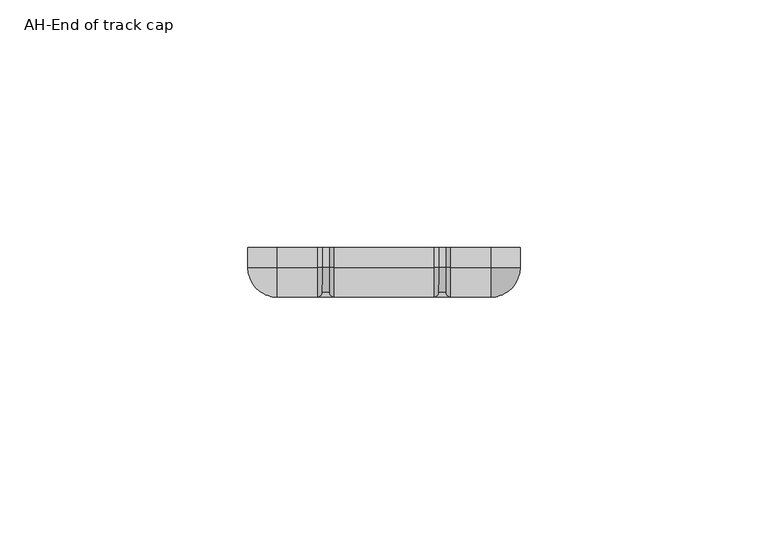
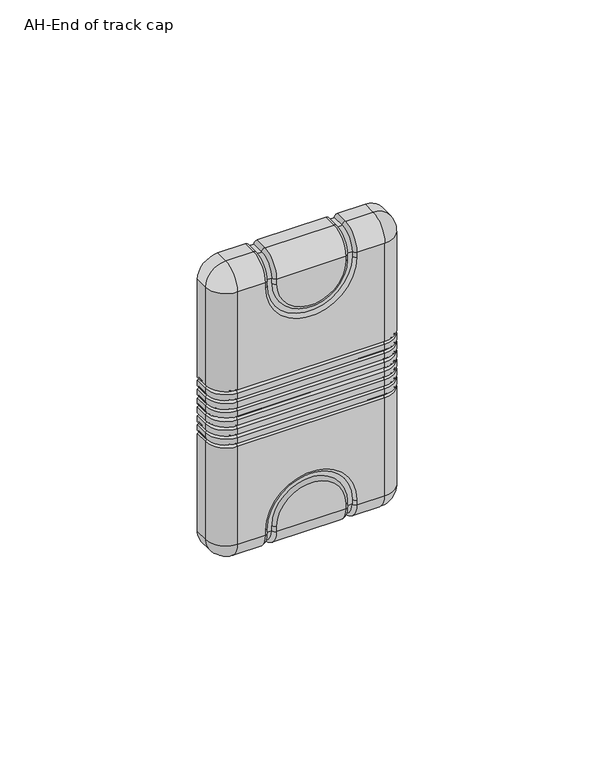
"""IFC4 building model written with IfcOpenShell, lengths in millimetres: proxy geometry, End Of Track Cap - ARJO - Revit2017 - REV0 : AH-End of track cap."""

from ifc_helpers import new_model, si_unit, point, frame, origin, place, context, project, spatial, polyline, circle_curve, ellipse_curve, trimmed, source, transform, mapped, element, save
from ifc_brep_helpers import plane_surface, cylinder_surface, revolved_surface, advanced_brep


def ah_end_of_track_cap_7309f591(model_context):
    return source(origin(), model_context, "Body", "AdvancedBrep", [
        advanced_brep(
        [(27.5, -4.0, 38.0), (27.5, 0.0, 38.0), (27.5, 0.0, 39.75), (27.5, -4.0, 39.75), (27.5, 0.0, 37.0), (27.5, -4.0, 37.0), (27.5, -4.0, 35.25), (27.5, 0.0, 35.25), (27.5, 0.0, 31.5), (27.5, -4.0, 31.5), (27.5, -4.0, 29.75), (27.5, 0.0, 29.75), (27.5, 0.0, 34.25), (27.5, -4.0, 34.25), (27.5, -4.0, 32.5), (27.5, 0.0, 32.5), (27.5, 0.0, -1.5), (27.5, 0.0, 28.75), (27.5, -4.0, 28.75), (27.5, -4.0, -1.5), (27.5, 0.0, 46.25), (27.5, 0.0, 76.5), (27.5, -4.0, 76.5), (27.5, -4.0, 46.25), (27.5, 0.0, 42.5), (27.5, -4.0, 42.5), (27.5, -4.0, 40.75), (27.5, 0.0, 40.75), (27.5, 0.0, 45.25), (27.5, -4.0, 45.25), (27.5, -4.0, 43.5), (27.5, 0.0, 43.5), (21.5, -10.0, 37.0), (21.5, -10.0, 35.25), (21.5, -10.0, 38.0), (21.5, -10.0, 39.75), (21.5, -10.0, 31.5), (21.5, -10.0, 29.75), (21.5, -10.0, 34.25), (21.5, -10.0, 32.5), (21.5, -10.0, 42.5), (21.5, -10.0, 40.75), (21.5, -10.0, 76.5), (21.5, -10.0, 46.25), (21.5, -10.0, 45.25), (21.5, -10.0, 43.5), (21.5, -10.0, 28.75), (21.5, -10.0, -1.5), (-21.5, -10.0, 38.0), (-21.5, -10.0, 37.0), (-27.5, -4.0, 38.0), (-27.5, -4.0, 37.0), (-27.5, 0.0, 38.0), (-27.5, 0.0, 37.0), (-21.5, -10.0, 39.75), (-21.5, -10.0, 35.25), (-10.0346028, -10.0, 76.5), (-10.0346028, -10.0, 75.0), (10.0346028, -10.0, 75.0), (10.0346028, -10.0, 76.5), (-13.4826973, -10.0, 75.0), (-13.4826973, -10.0, 76.5), (-21.5, -10.0, 76.5), (-21.5, -10.0, 46.25), (13.4826973, -10.0, 76.5), (13.4826973, -10.0, 75.0), (-10.0346028, -10.0, 0.0), (-10.0346028, -10.0, -1.5), (10.0346028, -10.0, -1.5), (10.0346028, -10.0, 0.0), (-13.4826973, -10.0, -1.5), (-13.4826973, -10.0, 0.0), (13.4826973, -10.0, 0.0), (13.4826973, -10.0, -1.5), (-21.5, -10.0, 28.75), (-21.5, -10.0, -1.5), (-21.5, -10.0, 42.5), (-21.5, -10.0, 40.75), (-21.5, -10.0, 45.25), (-21.5, -10.0, 43.5), (-21.5, -10.0, 34.25), (-21.5, -10.0, 32.5), (-21.5, -10.0, 31.5), (-21.5, -10.0, 29.75), (21.5, 0.0, -7.5), (13.4826973, 0.0, -7.5), (12.5001497, 0.0, -6.5174524), (11.0171504, 0.0, -6.5174524), (10.0346028, 0.0, -7.5), (-10.0346028, 0.0, -7.5), (-11.0171504, 0.0, -6.5174524), (-12.5001497, 0.0, -6.5174524), (-13.4826973, 0.0, -7.5), (-21.5, 0.0, -7.5), (-27.5, 0.0, -1.5), (-27.5, 0.0, 28.75), (-27.5, 0.0, 29.75), (-27.5, 0.0, 31.5), (-27.5, 0.0, 32.5), (-27.5, 0.0, 34.25), (-27.5, 0.0, 35.25), (-27.5, 0.0, 39.75), (-27.5, 0.0, 40.75), (-27.5, 0.0, 42.5), (-27.5, 0.0, 43.5), (-27.5, 0.0, 45.25), (-27.5, 0.0, 46.25), (-27.5, 0.0, 76.5), (-21.5, 0.0, 82.5), (-13.4826973, 0.0, 82.5), (-12.5001497, 0.0, 81.5174524), (-11.0171504, 0.0, 81.5174524), (-10.0346028, 0.0, 82.5), (10.0346028, 0.0, 82.5), (11.0171504, 0.0, 81.5174524), (12.5001497, 0.0, 81.5174524), (13.4826973, 0.0, 82.5), (21.5, 0.0, 82.5), (-11.0171504, -9.0174524, 76.5), (-11.0171504, -9.0174524, 75.0), (-12.5001497, -9.0174524, 76.5), (-12.5001497, -9.0174524, 75.0), (12.5001497, -9.0174524, 75.0), (12.5001497, -9.0174524, 76.5), (11.0171504, -9.0174524, 76.5), (11.0171504, -9.0174524, 75.0), (-11.0171504, -9.0174524, 0.0), (-11.0171504, -9.0174524, -1.5), (11.0171504, -9.0174524, 0.0), (11.0171504, -9.0174524, -1.5), (12.5001497, -9.0174524, -1.5), (12.5001497, -9.0174524, 0.0), (-12.5001497, -9.0174524, 0.0), (-12.5001497, -9.0174524, -1.5), (21.5, -4.0, -7.5), (13.4826973, -4.0, -7.5), (10.0346028, -4.0, -7.5), (-10.0346028, -4.0, -7.5), (-13.4826974, -4.0, -7.5), (-21.5, -4.0, -7.5), (-27.5, -4.0, -1.5), (-21.5, -4.0, 82.5), (-13.4826973, -4.0, 82.5), (21.5, -4.0, 82.5), (13.4826973, -4.0, 82.5), (-10.0346028, -4.0, 82.5), (10.0346028, -4.0, 82.5), (-27.5, -4.0, 39.75), (-27.5, -4.0, 35.25), (-27.5, -4.0, 28.75), (-27.5, -4.0, 46.25), (-27.5, -4.0, 76.5), (-27.5, -4.0, 45.25), (-27.5, -4.0, 43.5), (-27.5, -4.0, 42.5), (-27.5, -4.0, 40.75), (-27.5, -4.0, 34.25), (-27.5, -4.0, 32.5), (-27.5, -4.0, 31.5), (-27.5, -4.0, 29.75), (-12.5001497, -4.0, 81.5174524), (-11.0171504, -4.0, 81.5174524), (11.0171504, -4.0, 81.5174524), (12.5001497, -4.0, 81.5174524), (12.5001497, -4.0, -6.5174524), (11.0171504, -4.0, -6.5174524), (-11.0171504, -4.0, -6.5174524), (-12.5001497, -4.0, -6.5174524)],
        [
            (0, 1),
            (1, 2),
            (2, 3),
            (3, 0),
            (4, 5),
            (5, 6),
            (6, 7),
            (7, 4),
            (8, 9),
            (9, 10),
            (10, 11),
            (11, 8),
            (12, 13),
            (13, 14),
            (14, 15),
            (15, 12),
            (16, 17),
            (17, 18),
            (18, 19),
            (19, 16),
            (20, 21),
            (21, 22),
            (22, 23),
            (23, 20),
            (24, 25),
            (25, 26),
            (26, 27),
            (27, 24),
            (28, 29),
            (29, 30),
            (30, 31),
            (31, 28),
            (5, 32, circle_curve(frame((21.5, -4.0, 37.0), z_axis=(0.0, 0.0, -1.0), x_axis=(0.0, 1.0, 0.0)), 6.0)),
            (32, 33),
            (33, 6, circle_curve(frame((21.5, -4.0, 35.25), z_axis=(0.0, 0.0, 1.0), x_axis=(0.0, 1.0, 0.0)), 6.0)),
            (34, 0, circle_curve(frame((21.5, -4.0, 38.0), z_axis=(0.0, 0.0, 1.0), x_axis=(0.0, 1.0, 0.0)), 6.0)),
            (3, 35, circle_curve(frame((21.5, -4.0, 39.75), z_axis=(0.0, 0.0, -1.0), x_axis=(0.0, 1.0, 0.0)), 6.0)),
            (35, 34),
            (9, 36, circle_curve(frame((21.5, -4.0, 31.5), z_axis=(0.0, 0.0, -1.0), x_axis=(0.0, 1.0, 0.0)), 6.0)),
            (36, 37),
            (37, 10, circle_curve(frame((21.5, -4.0, 29.75), z_axis=(0.0, 0.0, 1.0), x_axis=(0.0, 1.0, 0.0)), 6.0)),
            (13, 38, circle_curve(frame((21.5, -4.0, 34.25), z_axis=(0.0, 0.0, -1.0), x_axis=(0.0, 1.0, 0.0)), 6.0)),
            (38, 39),
            (39, 14, circle_curve(frame((21.5, -4.0, 32.5), z_axis=(0.0, 0.0, 1.0), x_axis=(0.0, 1.0, 0.0)), 6.0)),
            (25, 40, circle_curve(frame((21.5, -4.0, 42.5), z_axis=(0.0, 0.0, -1.0), x_axis=(0.0, 1.0, 0.0)), 6.0)),
            (40, 41),
            (41, 26, circle_curve(frame((21.5, -4.0, 40.75), z_axis=(0.0, 0.0, 1.0), x_axis=(0.0, 1.0, 0.0)), 6.0)),
            (42, 43),
            (43, 23, circle_curve(frame((21.5, -4.0, 46.25), z_axis=(0.0, 0.0, 1.0), x_axis=(0.0, 1.0, 0.0)), 6.0)),
            (22, 42, circle_curve(frame((21.5, -4.0, 76.5), z_axis=(0.0, 0.0, -1.0), x_axis=(0.0, 1.0, 0.0)), 6.0)),
            (29, 44, circle_curve(frame((21.5, -4.0, 45.25), z_axis=(0.0, 0.0, -1.0), x_axis=(0.0, 1.0, 0.0)), 6.0)),
            (44, 45),
            (45, 30, circle_curve(frame((21.5, -4.0, 43.5), z_axis=(0.0, 0.0, 1.0), x_axis=(0.0, 1.0, 0.0)), 6.0)),
            (46, 47),
            (47, 19, circle_curve(frame((21.5, -4.0, -1.5), z_axis=(0.0, 0.0, 1.0), x_axis=(0.0, 1.0, 0.0)), 6.0)),
            (18, 46, circle_curve(frame((21.5, -4.0, 28.75), z_axis=(0.0, 0.0, -1.0), x_axis=(0.0, 1.0, 0.0)), 6.0)),
            (0, 5, circle_curve(frame((27.6214708, -4.0, 37.5), z_axis=(0.0, -1.0, 0.0), x_axis=(0.0, 0.0, 1.0)), 0.5145436)),
            (4, 1, circle_curve(frame((27.6214708, 0.0, 37.5), z_axis=(0.0, 1.0, 0.0), x_axis=(0.0, 0.0, 1.0)), 0.5145436)),
            (34, 32, circle_curve(frame((21.5, -10.1214708, 37.5), z_axis=(-1.0, 0.0, 0.0), x_axis=(0.0, 0.0, 1.0)), 0.5145436)),
            (34, 48),
            (48, 49, circle_curve(frame((-21.5, -10.1214708, 37.5), z_axis=(-1.0, 0.0, 0.0), x_axis=(0.0, 0.0, 1.0)), 0.5145436)),
            (49, 32),
            (48, 50, circle_curve(frame((-21.5, -4.0, 38.0), z_axis=(0.0, 0.0, -1.0), x_axis=(0.0, -1.0, 0.0)), 6.0)),
            (50, 51, circle_curve(frame((-27.6214708, -4.0, 37.5), z_axis=(0.0, 1.0, 0.0), x_axis=(0.0, 0.0, 1.0)), 0.5145436)),
            (51, 49, circle_curve(frame((-21.5, -4.0, 37.0), z_axis=(0.0, 0.0, 1.0), x_axis=(0.0, -1.0, 0.0)), 6.0)),
            (50, 52),
            (52, 53, circle_curve(frame((-27.6214708, 0.0, 37.5), z_axis=(0.0, 1.0, 0.0), x_axis=(0.0, 0.0, 1.0)), 0.5145436)),
            (53, 51),
            (35, 54),
            (54, 48),
            (49, 55),
            (55, 33),
            (56, 57),
            (57, 58, circle_curve(frame((0.0, -10.0, 75.0), z_axis=(0.0, -1.0, 0.0), x_axis=(-1.0, 0.0, 0.0)), 10.0346028)),
            (58, 59),
            (59, 56),
            (60, 61),
            (61, 62),
            (62, 63),
            (63, 43),
            (42, 64),
            (64, 65),
            (65, 60, circle_curve(frame((0.0, -10.0, 75.0), z_axis=(0.0, 1.0, 0.0), x_axis=(-1.0, 0.0, 0.0)), 13.4826973)),
            (66, 67),
            (67, 68),
            (68, 69),
            (69, 66, circle_curve(frame((0.0, -10.0, 0.0), z_axis=(0.0, -1.0, 0.0), x_axis=(-1.0, 0.0, 0.0)), 10.0346028)),
            (70, 71),
            (71, 72, circle_curve(frame((0.0, -10.0, 0.0), z_axis=(0.0, 1.0, 0.0), x_axis=(-1.0, 0.0, 0.0)), 13.4826973)),
            (72, 73),
            (73, 47),
            (46, 74),
            (74, 75),
            (75, 70),
            (40, 76),
            (76, 77),
            (77, 41),
            (44, 78),
            (78, 79),
            (79, 45),
            (38, 80),
            (80, 81),
            (81, 39),
            (36, 82),
            (82, 83),
            (83, 37),
            (7, 12, circle_curve(frame((27.6214708, 0.0, 34.75), z_axis=(0.0, -1.0, 0.0), x_axis=(0.0, 0.0, 1.0)), 0.5145436)),
            (15, 8, circle_curve(frame((27.6214708, 0.0, 32.0), z_axis=(0.0, -1.0, 0.0), x_axis=(0.0, 0.0, 1.0)), 0.5145436)),
            (11, 17, circle_curve(frame((27.6214708, 0.0, 29.25), z_axis=(0.0, -1.0, 0.0), x_axis=(0.0, 0.0, 1.0)), 0.5145436)),
            (16, 84, circle_curve(frame((21.5, 0.0, -1.5), z_axis=(0.0, 1.0, 0.0), x_axis=(1.0, 0.0, 0.0)), 6.0)),
            (84, 85),
            (85, 86, circle_curve(frame((13.4826973, 0.0, -6.5174524), z_axis=(0.0, 1.0, 0.0), x_axis=(-1.0, 0.0, 0.0)), 0.9825476)),
            (86, 87),
            (87, 88, circle_curve(frame((10.0346028, 0.0, -6.5174524), z_axis=(0.0, 1.0, 0.0), x_axis=(-1.0, 0.0, 0.0)), 0.9825476)),
            (88, 89),
            (89, 90, circle_curve(frame((-10.0346028, 0.0, -6.5174524), z_axis=(0.0, 1.0, 0.0), x_axis=(-1.0, 0.0, 0.0)), 0.9825476)),
            (90, 91),
            (91, 92, circle_curve(frame((-13.4826973, 0.0, -6.5174524), z_axis=(0.0, 1.0, 0.0), x_axis=(-1.0, 0.0, 0.0)), 0.9825476)),
            (92, 93),
            (93, 94, circle_curve(frame((-21.5, 0.0, -1.5), z_axis=(0.0, 1.0, 0.0), x_axis=(-1.0, 0.0, 0.0)), 6.0)),
            (94, 95),
            (95, 96, circle_curve(frame((-27.6214708, 0.0, 29.25), z_axis=(0.0, -1.0, 0.0), x_axis=(0.0, 0.0, 1.0)), 0.5145436)),
            (96, 97),
            (97, 98, circle_curve(frame((-27.6214708, 0.0, 32.0), z_axis=(0.0, -1.0, 0.0), x_axis=(0.0, 0.0, 1.0)), 0.5145436)),
            (98, 99),
            (99, 100, circle_curve(frame((-27.6214708, 0.0, 34.75), z_axis=(0.0, -1.0, 0.0), x_axis=(0.0, 0.0, 1.0)), 0.5145436)),
            (100, 53),
            (52, 101),
            (101, 102, circle_curve(frame((-27.6214708, 0.0, 40.25), z_axis=(0.0, -1.0, 0.0), x_axis=(0.0, 0.0, 1.0)), 0.5145436)),
            (102, 103),
            (103, 104, circle_curve(frame((-27.6214708, 0.0, 43.0), z_axis=(0.0, -1.0, 0.0), x_axis=(0.0, 0.0, 1.0)), 0.5145436)),
            (104, 105),
            (105, 106, circle_curve(frame((-27.6214708, 0.0, 45.75), z_axis=(0.0, -1.0, 0.0), x_axis=(0.0, 0.0, 1.0)), 0.5145436)),
            (106, 107),
            (107, 108, circle_curve(frame((-21.5, 0.0, 76.5), z_axis=(0.0, 1.0, 0.0), x_axis=(0.0, 0.0, 1.0)), 6.0)),
            (108, 109),
            (109, 110, circle_curve(frame((-13.4826973, 0.0, 81.5174524), z_axis=(0.0, 1.0, 0.0), x_axis=(1.0, 0.0, 0.0)), 0.9825476)),
            (110, 111),
            (111, 112, circle_curve(frame((-10.0346028, 0.0, 81.5174524), z_axis=(0.0, 1.0, 0.0), x_axis=(1.0, 0.0, 0.0)), 0.9825476)),
            (112, 113),
            (113, 114, circle_curve(frame((10.0346028, 0.0, 81.5174524), z_axis=(0.0, 1.0, 0.0), x_axis=(1.0, 0.0, 0.0)), 0.9825476)),
            (114, 115),
            (115, 116, circle_curve(frame((13.4826973, 0.0, 81.5174524), z_axis=(0.0, 1.0, 0.0), x_axis=(1.0, 0.0, 0.0)), 0.9825476)),
            (116, 117),
            (117, 21, circle_curve(frame((21.5, 0.0, 76.5), z_axis=(0.0, 1.0, 0.0), x_axis=(0.0, 0.0, 1.0)), 6.0)),
            (20, 28, circle_curve(frame((27.6214708, 0.0, 45.75), z_axis=(0.0, -1.0, 0.0), x_axis=(0.0, 0.0, 1.0)), 0.5145436)),
            (31, 24, circle_curve(frame((27.6214708, 0.0, 43.0), z_axis=(0.0, -1.0, 0.0), x_axis=(0.0, 0.0, 1.0)), 0.5145436)),
            (27, 2, circle_curve(frame((27.6214708, 0.0, 40.25), z_axis=(0.0, -1.0, 0.0), x_axis=(0.0, 0.0, 1.0)), 0.5145436)),
            (118, 119),
            (119, 57, circle_curve(frame((-10.0346028, -9.0174524, 75.0), z_axis=(0.0, 0.0, 1.0), x_axis=(-1.0, 0.0, 0.0)), 0.9825476)),
            (56, 118, circle_curve(frame((-10.0346028, -9.0174524, 76.5), z_axis=(0.0, 0.0, -1.0), x_axis=(-1.0, 0.0, 0.0)), 0.9825476)),
            (118, 120),
            (120, 121),
            (121, 122, circle_curve(frame((0.0, -9.0174524, 75.0), z_axis=(0.0, -1.0, 0.0), x_axis=(-1.0, 0.0, 0.0)), 12.5001497)),
            (122, 123),
            (123, 124),
            (124, 125),
            (125, 119, circle_curve(frame((0.0, -9.0174524, 75.0), z_axis=(0.0, 1.0, 0.0), x_axis=(-1.0, 0.0, 0.0)), 11.0171504)),
            (120, 61, circle_curve(frame((-13.4826973, -9.0174524, 76.5), z_axis=(0.0, 0.0, -1.0), x_axis=(-1.0, 0.0, 0.0)), 0.9825476)),
            (60, 121, circle_curve(frame((-13.4826973, -9.0174524, 75.0), z_axis=(0.0, 0.0, 1.0), x_axis=(-1.0, 0.0, 0.0)), 0.9825476)),
            (125, 58, circle_curve(frame((10.0346028, -9.0174524, 75.0), z_axis=(0.0, 0.0, -1.0), x_axis=(1.0, 0.0, 0.0)), 0.9825476)),
            (65, 122, circle_curve(frame((13.4826973, -9.0174524, 75.0), z_axis=(0.0, 0.0, -1.0), x_axis=(1.0, 0.0, 0.0)), 0.9825476)),
            (124, 59, circle_curve(frame((10.0346028, -9.0174524, 76.5), z_axis=(0.0, 0.0, -1.0), x_axis=(1.0, 0.0, 0.0)), 0.9825476)),
            (64, 123, circle_curve(frame((13.4826973, -9.0174524, 76.5), z_axis=(0.0, 0.0, -1.0), x_axis=(1.0, 0.0, 0.0)), 0.9825476)),
            (66, 126, circle_curve(frame((-10.0346028, -9.0174524, 0.0), z_axis=(0.0, 0.0, -1.0), x_axis=(-1.0, 0.0, 0.0)), 0.9825476)),
            (126, 127),
            (127, 67, circle_curve(frame((-10.0346028, -9.0174524, -1.5), z_axis=(0.0, 0.0, 1.0), x_axis=(-1.0, 0.0, 0.0)), 0.9825476)),
            (126, 128, circle_curve(frame((0.0, -9.0174524, 0.0), z_axis=(0.0, 1.0, 0.0), x_axis=(-1.0, 0.0, 0.0)), 11.0171504)),
            (128, 129),
            (129, 130),
            (130, 131),
            (131, 132, circle_curve(frame((0.0, -9.0174524, 0.0), z_axis=(0.0, -1.0, 0.0), x_axis=(-1.0, 0.0, 0.0)), 12.5001497)),
            (132, 133),
            (133, 127),
            (132, 71, circle_curve(frame((-13.4826973, -9.0174524, 0.0), z_axis=(0.0, 0.0, -1.0), x_axis=(-1.0, 0.0, 0.0)), 0.9825476)),
            (70, 133, circle_curve(frame((-13.4826973, -9.0174524, -1.5), z_axis=(0.0, 0.0, 1.0), x_axis=(-1.0, 0.0, 0.0)), 0.9825476)),
            (69, 128, circle_curve(frame((10.0346028, -9.0174524, 0.0), z_axis=(0.0, 0.0, 1.0), x_axis=(1.0, 0.0, 0.0)), 0.9825476)),
            (131, 72, circle_curve(frame((13.4826973, -9.0174524, 0.0), z_axis=(0.0, 0.0, 1.0), x_axis=(1.0, 0.0, 0.0)), 0.9825476)),
            (68, 129, circle_curve(frame((10.0346028, -9.0174524, -1.5), z_axis=(0.0, 0.0, 1.0), x_axis=(1.0, 0.0, 0.0)), 0.9825476)),
            (130, 73, circle_curve(frame((13.4826973, -9.0174524, -1.5), z_axis=(0.0, 0.0, 1.0), x_axis=(1.0, 0.0, 0.0)), 0.9825476)),
            (19, 134, circle_curve(frame((21.5, -4.0, -1.5), z_axis=(0.0, 1.0, 0.0), x_axis=(1.0, 0.0, 0.0)), 6.0)),
            (134, 84),
            (47, 134, circle_curve(frame((21.5, -4.0, -1.5), z_axis=(1.0, 0.0, 0.0), x_axis=(0.0, 1.0, 0.0)), 6.0)),
            (134, 135),
            (135, 85),
            (88, 136),
            (136, 137),
            (137, 89),
            (138, 139),
            (139, 93),
            (92, 138),
            (73, 135, circle_curve(frame((13.4826973, -4.0, -1.5), z_axis=(1.0, 0.0, 0.0), x_axis=(0.0, 1.0, 0.0)), 6.0)),
            (138, 70, circle_curve(frame((-13.4826973, -4.0, -1.5), z_axis=(-1.0, 0.0, 0.0), x_axis=(0.0, 1.0, 0.0)), 6.0)),
            (75, 139, circle_curve(frame((-21.5, -4.0, -1.5), z_axis=(1.0, 0.0, 0.0), x_axis=(0.0, 1.0, 0.0)), 6.0)),
            (136, 68, circle_curve(frame((10.0346028, -4.0, -1.5), z_axis=(-1.0, 0.0, 0.0), x_axis=(0.0, 1.0, 0.0)), 6.0)),
            (67, 137, circle_curve(frame((-10.0346028, -4.0, -1.5), z_axis=(1.0, 0.0, 0.0), x_axis=(0.0, 1.0, 0.0)), 6.0)),
            (139, 140, circle_curve(frame((-21.5, -4.0, -1.5), z_axis=(0.0, 1.0, 0.0), x_axis=(-1.0, 0.0, 0.0)), 6.0)),
            (140, 94),
            (75, 140, circle_curve(frame((-21.5, -4.0, -1.5), z_axis=(0.0, 0.0, -1.0), x_axis=(0.0, 1.0, 0.0)), 6.0)),
            (108, 141),
            (141, 142),
            (142, 109),
            (143, 117),
            (116, 144),
            (144, 143),
            (112, 145),
            (145, 146),
            (146, 113),
            (42, 143, circle_curve(frame((21.5, -4.0, 76.5), z_axis=(-1.0, 0.0, 0.0), x_axis=(0.0, 1.0, 0.0)), 6.0)),
            (144, 64, circle_curve(frame((13.4826973, -4.0, 76.5), z_axis=(1.0, 0.0, 0.0), x_axis=(0.0, 1.0, 0.0)), 6.0)),
            (141, 62, circle_curve(frame((-21.5, -4.0, 76.5), z_axis=(1.0, 0.0, 0.0), x_axis=(0.0, 1.0, 0.0)), 6.0)),
            (61, 142, circle_curve(frame((-13.4826973, -4.0, 76.5), z_axis=(-1.0, 0.0, 0.0), x_axis=(0.0, 1.0, 0.0)), 6.0)),
            (145, 56, circle_curve(frame((-10.0346028, -4.0, 76.5), z_axis=(1.0, 0.0, 0.0), x_axis=(0.0, 1.0, 0.0)), 6.0)),
            (59, 146, circle_curve(frame((10.0346028, -4.0, 76.5), z_axis=(-1.0, 0.0, 0.0), x_axis=(0.0, 1.0, 0.0)), 6.0)),
            (50, 147),
            (147, 101),
            (100, 148),
            (148, 51),
            (140, 149),
            (149, 95),
            (106, 150),
            (150, 151),
            (151, 107),
            (152, 105),
            (104, 153),
            (153, 152),
            (154, 103),
            (102, 155),
            (155, 154),
            (156, 99),
            (98, 157),
            (157, 156),
            (158, 97),
            (96, 159),
            (159, 158),
            (54, 147, circle_curve(frame((-21.5, -4.0, 39.75), z_axis=(0.0, 0.0, -1.0), x_axis=(0.0, 1.0, 0.0)), 6.0)),
            (148, 55, circle_curve(frame((-21.5, -4.0, 35.25), z_axis=(0.0, 0.0, 1.0), x_axis=(0.0, 1.0, 0.0)), 6.0)),
            (62, 151, circle_curve(frame((-21.5, -4.0, 76.5), z_axis=(0.0, 0.0, -1.0), x_axis=(0.0, 1.0, 0.0)), 6.0)),
            (150, 63, circle_curve(frame((-21.5, -4.0, 46.25), z_axis=(0.0, 0.0, 1.0), x_axis=(0.0, 1.0, 0.0)), 6.0)),
            (74, 149, circle_curve(frame((-21.5, -4.0, 28.75), z_axis=(0.0, 0.0, -1.0), x_axis=(0.0, 1.0, 0.0)), 6.0)),
            (78, 152, circle_curve(frame((-21.5, -4.0, 45.25), z_axis=(0.0, 0.0, -1.0), x_axis=(0.0, 1.0, 0.0)), 6.0)),
            (153, 79, circle_curve(frame((-21.5, -4.0, 43.5), z_axis=(0.0, 0.0, 1.0), x_axis=(0.0, 1.0, 0.0)), 6.0)),
            (76, 154, circle_curve(frame((-21.5, -4.0, 42.5), z_axis=(0.0, 0.0, -1.0), x_axis=(0.0, 1.0, 0.0)), 6.0)),
            (155, 77, circle_curve(frame((-21.5, -4.0, 40.75), z_axis=(0.0, 0.0, 1.0), x_axis=(0.0, 1.0, 0.0)), 6.0)),
            (80, 156, circle_curve(frame((-21.5, -4.0, 34.25), z_axis=(0.0, 0.0, -1.0), x_axis=(0.0, 1.0, 0.0)), 6.0)),
            (157, 81, circle_curve(frame((-21.5, -4.0, 32.5), z_axis=(0.0, 0.0, 1.0), x_axis=(0.0, 1.0, 0.0)), 6.0)),
            (82, 158, circle_curve(frame((-21.5, -4.0, 31.5), z_axis=(0.0, 0.0, -1.0), x_axis=(0.0, 1.0, 0.0)), 6.0)),
            (159, 83, circle_curve(frame((-21.5, -4.0, 29.75), z_axis=(0.0, 0.0, 1.0), x_axis=(0.0, 1.0, 0.0)), 6.0)),
            (143, 22, circle_curve(frame((21.5, -4.0, 76.5), z_axis=(0.0, 1.0, 0.0), x_axis=(0.0, 0.0, 1.0)), 6.0)),
            (151, 141, circle_curve(frame((-21.5, -4.0, 76.5), z_axis=(0.0, 1.0, 0.0), x_axis=(0.0, 0.0, 1.0)), 6.0)),
            (23, 29, circle_curve(frame((27.6214708, -4.0, 45.75), z_axis=(0.0, -1.0, 0.0), x_axis=(0.0, 0.0, 1.0)), 0.5145436)),
            (43, 44, circle_curve(frame((21.5, -10.1214708, 45.75), z_axis=(-1.0, 0.0, 0.0), x_axis=(0.0, 0.0, 1.0)), 0.5145436)),
            (63, 78, circle_curve(frame((-21.5, -10.1214708, 45.75), z_axis=(-1.0, 0.0, 0.0), x_axis=(0.0, 0.0, 1.0)), 0.5145436)),
            (150, 152, circle_curve(frame((-27.6214708, -4.0, 45.75), z_axis=(0.0, 1.0, 0.0), x_axis=(0.0, 0.0, 1.0)), 0.5145436)),
            (30, 25, circle_curve(frame((27.6214708, -4.0, 43.0), z_axis=(0.0, -1.0, 0.0), x_axis=(0.0, 0.0, 1.0)), 0.5145436)),
            (45, 40, circle_curve(frame((21.5, -10.1214708, 43.0), z_axis=(-1.0, 0.0, 0.0), x_axis=(0.0, 0.0, 1.0)), 0.5145436)),
            (79, 76, circle_curve(frame((-21.5, -10.1214708, 43.0), z_axis=(-1.0, 0.0, 0.0), x_axis=(0.0, 0.0, 1.0)), 0.5145436)),
            (153, 154, circle_curve(frame((-27.6214708, -4.0, 43.0), z_axis=(0.0, 1.0, 0.0), x_axis=(0.0, 0.0, 1.0)), 0.5145436)),
            (26, 3, circle_curve(frame((27.6214708, -4.0, 40.25), z_axis=(0.0, -1.0, 0.0), x_axis=(0.0, 0.0, 1.0)), 0.5145436)),
            (41, 35, circle_curve(frame((21.5, -10.1214708, 40.25), z_axis=(-1.0, 0.0, 0.0), x_axis=(0.0, 0.0, 1.0)), 0.5145436)),
            (77, 54, circle_curve(frame((-21.5, -10.1214708, 40.25), z_axis=(-1.0, 0.0, 0.0), x_axis=(0.0, 0.0, 1.0)), 0.5145436)),
            (155, 147, circle_curve(frame((-27.6214708, -4.0, 40.25), z_axis=(0.0, 1.0, 0.0), x_axis=(0.0, 0.0, 1.0)), 0.5145436)),
            (6, 13, circle_curve(frame((27.6214708, -4.0, 34.75), z_axis=(0.0, -1.0, 0.0), x_axis=(0.0, 0.0, 1.0)), 0.5145436)),
            (33, 38, circle_curve(frame((21.5, -10.1214708, 34.75), z_axis=(-1.0, 0.0, 0.0), x_axis=(0.0, 0.0, 1.0)), 0.5145436)),
            (55, 80, circle_curve(frame((-21.5, -10.1214708, 34.75), z_axis=(-1.0, 0.0, 0.0), x_axis=(0.0, 0.0, 1.0)), 0.5145436)),
            (148, 156, circle_curve(frame((-27.6214708, -4.0, 34.75), z_axis=(0.0, 1.0, 0.0), x_axis=(0.0, 0.0, 1.0)), 0.5145436)),
            (14, 9, circle_curve(frame((27.6214708, -4.0, 32.0), z_axis=(0.0, -1.0, 0.0), x_axis=(0.0, 0.0, 1.0)), 0.5145436)),
            (39, 36, circle_curve(frame((21.5, -10.1214708, 32.0), z_axis=(-1.0, 0.0, 0.0), x_axis=(0.0, 0.0, 1.0)), 0.5145436)),
            (81, 82, circle_curve(frame((-21.5, -10.1214708, 32.0), z_axis=(-1.0, 0.0, 0.0), x_axis=(0.0, 0.0, 1.0)), 0.5145436)),
            (157, 158, circle_curve(frame((-27.6214708, -4.0, 32.0), z_axis=(0.0, 1.0, 0.0), x_axis=(0.0, 0.0, 1.0)), 0.5145436)),
            (10, 18, circle_curve(frame((27.6214708, -4.0, 29.25), z_axis=(0.0, -1.0, 0.0), x_axis=(0.0, 0.0, 1.0)), 0.5145436)),
            (37, 46, circle_curve(frame((21.5, -10.1214708, 29.25), z_axis=(-1.0, 0.0, 0.0), x_axis=(0.0, 0.0, 1.0)), 0.5145436)),
            (83, 74, circle_curve(frame((-21.5, -10.1214708, 29.25), z_axis=(-1.0, 0.0, 0.0), x_axis=(0.0, 0.0, 1.0)), 0.5145436)),
            (159, 149, circle_curve(frame((-27.6214708, -4.0, 29.25), z_axis=(0.0, 1.0, 0.0), x_axis=(0.0, 0.0, 1.0)), 0.5145436)),
            (160, 142, circle_curve(frame((-13.4826973, -4.0, 81.5174524), z_axis=(0.0, -1.0, 0.0), x_axis=(1.0, 0.0, 0.0)), 0.9825476)),
            (120, 160, circle_curve(frame((-12.5001497, -4.0, 76.5), z_axis=(-1.0, 0.0, 0.0), x_axis=(0.0, -1.0, 0.0)), 5.0174524)),
            (118, 161, circle_curve(frame((-11.0171504, -4.0, 76.5), z_axis=(-1.0, 0.0, 0.0), x_axis=(0.0, -1.0, 0.0)), 5.0174524)),
            (161, 160),
            (145, 161, circle_curve(frame((-10.0346028, -4.0, 81.5174524), z_axis=(0.0, -1.0, 0.0), x_axis=(1.0, 0.0, 0.0)), 0.9825476)),
            (160, 110),
            (161, 111),
            (162, 146, circle_curve(frame((10.0346028, -4.0, 81.5174524), z_axis=(0.0, -1.0, 0.0), x_axis=(1.0, 0.0, 0.0)), 0.9825476)),
            (124, 162, circle_curve(frame((11.0171504, -4.0, 76.5), z_axis=(-1.0, 0.0, 0.0), x_axis=(0.0, -1.0, 0.0)), 5.0174524)),
            (123, 163, circle_curve(frame((12.5001497, -4.0, 76.5), z_axis=(-1.0, 0.0, 0.0), x_axis=(0.0, -1.0, 0.0)), 5.0174524)),
            (163, 162),
            (144, 163, circle_curve(frame((13.4826973, -4.0, 81.5174524), z_axis=(0.0, -1.0, 0.0), x_axis=(1.0, 0.0, 0.0)), 0.9825476)),
            (162, 114),
            (163, 115),
            (164, 135, circle_curve(frame((13.4826973, -4.0, -6.5174524), z_axis=(0.0, -1.0, 0.0), x_axis=(-1.0, 0.0, 0.0)), 0.9825476)),
            (130, 164, circle_curve(frame((12.5001497, -4.0, -1.5), z_axis=(1.0, 0.0, 0.0), x_axis=(0.0, -1.0, 0.0)), 5.0174524)),
            (129, 165, circle_curve(frame((11.0171504, -4.0, -1.5), z_axis=(1.0, 0.0, 0.0), x_axis=(0.0, -1.0, 0.0)), 5.0174524)),
            (165, 164),
            (136, 165, circle_curve(frame((10.0346028, -4.0, -6.5174524), z_axis=(0.0, -1.0, 0.0), x_axis=(-1.0, 0.0, 0.0)), 0.9825476)),
            (164, 86),
            (165, 87),
            (166, 137, circle_curve(frame((-10.0346028, -4.0, -6.5174524), z_axis=(0.0, -1.0, 0.0), x_axis=(-1.0, 0.0, 0.0)), 0.9825476)),
            (127, 166, circle_curve(frame((-11.0171504, -4.0, -1.5), z_axis=(1.0, 0.0, 0.0), x_axis=(0.0, -1.0, 0.0)), 5.0174524)),
            (133, 167, circle_curve(frame((-12.5001497, -4.0, -1.5), z_axis=(1.0, 0.0, 0.0), x_axis=(0.0, -1.0, 0.0)), 5.0174524)),
            (167, 166),
            (138, 167, circle_curve(frame((-13.4826973, -4.0, -6.5174524), z_axis=(0.0, -1.0, 0.0), x_axis=(-1.0, 0.0, 0.0)), 0.9825476)),
            (166, 90),
            (167, 91),
        ],
        [
            plane_surface(frame((27.5, -4.0, 76.5), z_axis=(1.0, 0.0, 0.0), x_axis=(0.0, 0.0, -1.0))),
            cylinder_surface(frame((21.5, -4.0, -1.5), z_axis=(0.0, 0.0, 1.0), x_axis=(0.0, 1.0, 0.0)), 6.0),
            revolved_surface(polyline([(27.6214708, 0.0, 38.0145436), (27.6214708, -4.0, 38.0145436)]), (27.6214708, 0.0, 37.5), (0.0, 1.0, 0.0)),
            revolved_surface(trimmed(ellipse_curve(frame((27.6214708, -4.0, 37.5), z_axis=(0.0, -1.0, 0.0), x_axis=(0.0, 0.0, 1.0)), 0.5145436, 0.5145436), [point((27.5, -4.0, 38.0))], [point((27.5, -4.0, 37.0))], True, "CARTESIAN"), (21.5, -4.0, 37.5), (0.0, 0.0, -1.0)),
            revolved_surface(polyline([(21.5, -10.1214708, 38.0145436), (-21.5, -10.1214708, 38.0145436)]), (21.5, -10.1214708, 37.5), (1.0, 0.0, 0.0)),
            revolved_surface(trimmed(ellipse_curve(frame((-21.5, -10.1214708, 37.5), z_axis=(-1.0, 0.0, 0.0), x_axis=(0.0, 0.0, 1.0)), 0.5145436, 0.5145436), [point((-21.5, -10.0, 38.0))], [point((-21.5, -10.0, 37.0))], True, "CARTESIAN"), (-21.5, -4.0, 37.5), (0.0, 0.0, -1.0)),
            revolved_surface(polyline([(-27.6214708, -4.0, 38.0145436), (-27.6214708, 0.0, 38.0145436)]), (-27.6214708, -4.0, 37.5), (0.0, -1.0, 0.0)),
            plane_surface(frame((-21.5, -10.0, 76.5), z_axis=(0.0, -1.0, 0.0), x_axis=(-1.0, 0.0, 0.0))),
            plane_surface(frame((-21.5, 0.0, 76.5), z_axis=(0.0, 1.0, 0.0), x_axis=(1.0, 0.0, 0.0))),
            cylinder_surface(frame((-10.0346028, -9.0174524, 76.5), z_axis=(0.0, 0.0, -1.0), x_axis=(-1.0, 0.0, 0.0)), 0.9825476),
            plane_surface(frame((-11.0171504, -9.0174524, 76.5), z_axis=(0.0, -1.0, 0.0), x_axis=(0.0, 0.0, -1.0))),
            cylinder_surface(frame((-13.4826973, -9.0174524, 76.5), z_axis=(0.0, 0.0, -1.0), x_axis=(-1.0, 0.0, 0.0)), 0.9825476),
            revolved_surface(trimmed(ellipse_curve(frame((-10.0346028, -9.0174524, 75.0), z_axis=(0.0, 0.0, 1.0), x_axis=(-1.0, 0.0, 0.0)), 0.9825476, 0.9825476), [point((-11.0171504, -9.0174524, 75.0))], [point((-10.0346028, -10.0, 75.0))], True, "CARTESIAN"), (0.0, 0.0, 75.0), (0.0, -1.0, 0.0)),
            revolved_surface(trimmed(ellipse_curve(frame((-13.4826973, -9.0174524, 75.0), z_axis=(0.0, 0.0, 1.0), x_axis=(-1.0, 0.0, 0.0)), 0.9825476, 0.9825476), [point((-13.4826973, -10.0, 75.0))], [point((-12.5001497, -9.0174524, 75.0))], True, "CARTESIAN"), (0.0, 0.0, 75.0), (0.0, -1.0, 0.0)),
            cylinder_surface(frame((10.0346028, -9.0174524, 75.0), z_axis=(0.0, 0.0, 1.0), x_axis=(1.0, 0.0, 0.0)), 0.9825476),
            cylinder_surface(frame((13.4826973, -9.0174524, 75.0), z_axis=(0.0, 0.0, 1.0), x_axis=(1.0, 0.0, 0.0)), 0.9825476),
            cylinder_surface(frame((-10.0346028, -9.0174524, -1.5), z_axis=(0.0, 0.0, 1.0), x_axis=(-1.0, 0.0, 0.0)), 0.9825476),
            plane_surface(frame((-12.5001497, -9.0174524, -1.5), z_axis=(0.0, -1.0, 0.0), x_axis=(0.0, 0.0, 1.0))),
            cylinder_surface(frame((-13.4826973, -9.0174524, -1.5), z_axis=(0.0, 0.0, 1.0), x_axis=(-1.0, 0.0, 0.0)), 0.9825476),
            revolved_surface(trimmed(ellipse_curve(frame((-10.0346028, -9.0174524, 0.0), z_axis=(0.0, 0.0, -1.0), x_axis=(-1.0, 0.0, 0.0)), 0.9825476, 0.9825476), [point((-10.0346028, -10.0, 0.0))], [point((-11.0171504, -9.0174524, 0.0))], True, "CARTESIAN"), (0.0, 0.0, 0.0), (0.0, 1.0, 0.0)),
            revolved_surface(trimmed(ellipse_curve(frame((-13.4826973, -9.0174524, 0.0), z_axis=(0.0, 0.0, -1.0), x_axis=(-1.0, 0.0, 0.0)), 0.9825476, 0.9825476), [point((-12.5001497, -9.0174524, 0.0))], [point((-13.4826973, -10.0, 0.0))], True, "CARTESIAN"), (0.0, 0.0, 0.0), (0.0, 1.0, 0.0)),
            cylinder_surface(frame((10.0346028, -9.0174524, 0.0), z_axis=(0.0, 0.0, -1.0), x_axis=(1.0, 0.0, 0.0)), 0.9825476),
            cylinder_surface(frame((13.4826973, -9.0174524, 0.0), z_axis=(0.0, 0.0, -1.0), x_axis=(1.0, 0.0, 0.0)), 0.9825476),
            cylinder_surface(frame((21.5, -10.0, -1.5), z_axis=(0.0, 1.0, 0.0), x_axis=(1.0, 0.0, 0.0)), 6.0),
            revolved_surface(trimmed(ellipse_curve(frame((21.5, -4.0, -1.5), z_axis=(0.0, 0.0, 1.0), x_axis=(0.0, 1.0, 0.0)), 6.0, 6.0), [point((21.5, -10.0, -1.5))], [point((27.5, -4.0, -1.5))], True, "CARTESIAN"), (21.5, -10.0, -1.5), (0.0, 1.0, 0.0)),
            plane_surface(frame((21.5, -4.0, -7.5), z_axis=(0.0, 0.0, -1.0), x_axis=(-1.0, 0.0, 0.0))),
            cylinder_surface(frame((-21.5, -4.0, -1.5), z_axis=(1.0, 0.0, 0.0), x_axis=(0.0, 1.0, 0.0)), 6.0),
            cylinder_surface(frame((-21.5, -10.0, -1.5), z_axis=(0.0, -1.0, 0.0), x_axis=(-1.0, 0.0, 0.0)), 6.0),
            revolved_surface(trimmed(ellipse_curve(frame((-21.5, -4.0, -1.5), z_axis=(0.0, 0.0, 1.0), x_axis=(0.0, 1.0, 0.0)), 6.0, 6.0), [point((-27.5, -4.0, -1.5))], [point((-21.5, -10.0, -1.5))], True, "CARTESIAN"), (-21.5, -10.0, -1.5), (0.0, -1.0, 0.0)),
            plane_surface(frame((21.5, 0.0, 82.5), z_axis=(0.0, 0.0, 1.0), x_axis=(-1.0, 0.0, 0.0))),
            cylinder_surface(frame((-21.5, -4.0, 76.5), z_axis=(1.0, 0.0, 0.0), x_axis=(0.0, 1.0, 0.0)), 6.0),
            plane_surface(frame((-27.5, 0.0, 76.5), z_axis=(-1.0, 0.0, 0.0), x_axis=(0.0, 0.0, -1.0))),
            cylinder_surface(frame((-21.5, -4.0, -1.5), z_axis=(0.0, 0.0, 1.0), x_axis=(0.0, 1.0, 0.0)), 6.0),
            cylinder_surface(frame((21.5, -10.0, 76.5), z_axis=(0.0, 1.0, 0.0), x_axis=(0.0, 0.0, 1.0)), 6.0),
            revolved_surface(trimmed(ellipse_curve(frame((21.5, -4.0, 76.5), z_axis=(-1.0, 0.0, 0.0), x_axis=(0.0, 1.0, 0.0)), 6.0, 6.0), [point((21.5, -10.0, 76.5))], [point((21.5, -4.0, 82.5))], True, "CARTESIAN"), (21.5, -10.0, 76.5), (0.0, 1.0, 0.0)),
            cylinder_surface(frame((-21.5, -10.0, 76.5), z_axis=(0.0, -1.0, 0.0), x_axis=(0.0, 0.0, 1.0)), 6.0),
            revolved_surface(trimmed(ellipse_curve(frame((-21.5, -4.0, 76.5), z_axis=(1.0, 0.0, 0.0), x_axis=(0.0, 1.0, 0.0)), 6.0, 6.0), [point((-21.5, -4.0, 82.5))], [point((-21.5, -10.0, 76.5))], True, "CARTESIAN"), (-21.5, -10.0, 76.5), (0.0, -1.0, 0.0)),
            revolved_surface(polyline([(27.6214708, 0.0, 46.2645436), (27.6214708, -4.0, 46.2645436)]), (27.6214708, 0.0, 45.75), (0.0, 1.0, 0.0)),
            revolved_surface(trimmed(ellipse_curve(frame((27.6214708, -4.0, 45.75), z_axis=(0.0, -1.0, 0.0), x_axis=(0.0, 0.0, 1.0)), 0.5145436, 0.5145436), [point((27.5, -4.0, 46.25))], [point((27.5, -4.0, 45.25))], True, "CARTESIAN"), (21.5, -4.0, 45.75), (0.0, 0.0, -1.0)),
            revolved_surface(polyline([(21.5, -10.1214708, 46.2645436), (-21.5, -10.1214708, 46.2645436)]), (21.5, -10.1214708, 45.75), (1.0, 0.0, 0.0)),
            revolved_surface(trimmed(ellipse_curve(frame((-21.5, -10.1214708, 45.75), z_axis=(-1.0, 0.0, 0.0), x_axis=(0.0, 0.0, 1.0)), 0.5145436, 0.5145436), [point((-21.5, -10.0, 46.25))], [point((-21.5, -10.0, 45.25))], True, "CARTESIAN"), (-21.5, -4.0, 45.75), (0.0, 0.0, -1.0)),
            revolved_surface(polyline([(-27.6214708, -4.0, 46.2645436), (-27.6214708, 0.0, 46.2645436)]), (-27.6214708, -4.0, 45.75), (0.0, -1.0, 0.0)),
            revolved_surface(polyline([(27.6214708, 0.0, 43.5145436), (27.6214708, -4.0, 43.5145436)]), (27.6214708, 0.0, 43.0), (0.0, 1.0, 0.0)),
            revolved_surface(trimmed(ellipse_curve(frame((27.6214708, -4.0, 43.0), z_axis=(0.0, -1.0, 0.0), x_axis=(0.0, 0.0, 1.0)), 0.5145436, 0.5145436), [point((27.5, -4.0, 43.5))], [point((27.5, -4.0, 42.5))], True, "CARTESIAN"), (21.5, -4.0, 43.0), (0.0, 0.0, -1.0)),
            revolved_surface(polyline([(21.5, -10.1214708, 43.5145436), (-21.5, -10.1214708, 43.5145436)]), (21.5, -10.1214708, 43.0), (1.0, 0.0, 0.0)),
            revolved_surface(trimmed(ellipse_curve(frame((-21.5, -10.1214708, 43.0), z_axis=(-1.0, 0.0, 0.0), x_axis=(0.0, 0.0, 1.0)), 0.5145436, 0.5145436), [point((-21.5, -10.0, 43.5))], [point((-21.5, -10.0, 42.5))], True, "CARTESIAN"), (-21.5, -4.0, 43.0), (0.0, 0.0, -1.0)),
            revolved_surface(polyline([(-27.6214708, -4.0, 43.5145436), (-27.6214708, 0.0, 43.5145436)]), (-27.6214708, -4.0, 43.0), (0.0, -1.0, 0.0)),
            revolved_surface(polyline([(27.6214708, 0.0, 40.7645436), (27.6214708, -4.0, 40.7645436)]), (27.6214708, 0.0, 40.25), (0.0, 1.0, 0.0)),
            revolved_surface(trimmed(ellipse_curve(frame((27.6214708, -4.0, 40.25), z_axis=(0.0, -1.0, 0.0), x_axis=(0.0, 0.0, 1.0)), 0.5145436, 0.5145436), [point((27.5, -4.0, 40.75))], [point((27.5, -4.0, 39.75))], True, "CARTESIAN"), (21.5, -4.0, 40.25), (0.0, 0.0, -1.0)),
            revolved_surface(polyline([(21.5, -10.1214708, 40.7645436), (-21.5, -10.1214708, 40.7645436)]), (21.5, -10.1214708, 40.25), (1.0, 0.0, 0.0)),
            revolved_surface(trimmed(ellipse_curve(frame((-21.5, -10.1214708, 40.25), z_axis=(-1.0, 0.0, 0.0), x_axis=(0.0, 0.0, 1.0)), 0.5145436, 0.5145436), [point((-21.5, -10.0, 40.75))], [point((-21.5, -10.0, 39.75))], True, "CARTESIAN"), (-21.5, -4.0, 40.25), (0.0, 0.0, -1.0)),
            revolved_surface(polyline([(-27.6214708, -4.0, 40.7645436), (-27.6214708, 0.0, 40.7645436)]), (-27.6214708, -4.0, 40.25), (0.0, -1.0, 0.0)),
            revolved_surface(polyline([(27.6214708, 0.0, 35.2645436), (27.6214708, -4.0, 35.2645436)]), (27.6214708, 0.0, 34.75), (0.0, 1.0, 0.0)),
            revolved_surface(trimmed(ellipse_curve(frame((27.6214708, -4.0, 34.75), z_axis=(0.0, -1.0, 0.0), x_axis=(0.0, 0.0, 1.0)), 0.5145436, 0.5145436), [point((27.5, -4.0, 35.25))], [point((27.5, -4.0, 34.25))], True, "CARTESIAN"), (21.5, -4.0, 34.75), (0.0, 0.0, -1.0)),
            revolved_surface(polyline([(21.5, -10.1214708, 35.2645436), (-21.5, -10.1214708, 35.2645436)]), (21.5, -10.1214708, 34.75), (1.0, 0.0, 0.0)),
            revolved_surface(trimmed(ellipse_curve(frame((-21.5, -10.1214708, 34.75), z_axis=(-1.0, 0.0, 0.0), x_axis=(0.0, 0.0, 1.0)), 0.5145436, 0.5145436), [point((-21.5, -10.0, 35.25))], [point((-21.5, -10.0, 34.25))], True, "CARTESIAN"), (-21.5, -4.0, 34.75), (0.0, 0.0, -1.0)),
            revolved_surface(polyline([(-27.6214708, -4.0, 35.2645436), (-27.6214708, 0.0, 35.2645436)]), (-27.6214708, -4.0, 34.75), (0.0, -1.0, 0.0)),
            revolved_surface(polyline([(27.6214708, 0.0, 32.5145436), (27.6214708, -4.0, 32.5145436)]), (27.6214708, 0.0, 32.0), (0.0, 1.0, 0.0)),
            revolved_surface(trimmed(ellipse_curve(frame((27.6214708, -4.0, 32.0), z_axis=(0.0, -1.0, 0.0), x_axis=(0.0, 0.0, 1.0)), 0.5145436, 0.5145436), [point((27.5, -4.0, 32.5))], [point((27.5, -4.0, 31.5))], True, "CARTESIAN"), (21.5, -4.0, 32.0), (0.0, 0.0, -1.0)),
            revolved_surface(polyline([(21.5, -10.1214708, 32.5145436), (-21.5, -10.1214708, 32.5145436)]), (21.5, -10.1214708, 32.0), (1.0, 0.0, 0.0)),
            revolved_surface(trimmed(ellipse_curve(frame((-21.5, -10.1214708, 32.0), z_axis=(-1.0, 0.0, 0.0), x_axis=(0.0, 0.0, 1.0)), 0.5145436, 0.5145436), [point((-21.5, -10.0, 32.5))], [point((-21.5, -10.0, 31.5))], True, "CARTESIAN"), (-21.5, -4.0, 32.0), (0.0, 0.0, -1.0)),
            revolved_surface(polyline([(-27.6214708, -4.0, 32.5145436), (-27.6214708, 0.0, 32.5145436)]), (-27.6214708, -4.0, 32.0), (0.0, -1.0, 0.0)),
            revolved_surface(polyline([(27.6214708, 0.0, 29.7645436), (27.6214708, -4.0, 29.7645436)]), (27.6214708, 0.0, 29.25), (0.0, 1.0, 0.0)),
            revolved_surface(trimmed(ellipse_curve(frame((27.6214708, -4.0, 29.25), z_axis=(0.0, -1.0, 0.0), x_axis=(0.0, 0.0, 1.0)), 0.5145436, 0.5145436), [point((27.5, -4.0, 29.75))], [point((27.5, -4.0, 28.75))], True, "CARTESIAN"), (21.5, -4.0, 29.25), (0.0, 0.0, -1.0)),
            revolved_surface(polyline([(21.5, -10.1214708, 29.7645436), (-21.5, -10.1214708, 29.7645436)]), (21.5, -10.1214708, 29.25), (1.0, 0.0, 0.0)),
            revolved_surface(trimmed(ellipse_curve(frame((-21.5, -10.1214708, 29.25), z_axis=(-1.0, 0.0, 0.0), x_axis=(0.0, 0.0, 1.0)), 0.5145436, 0.5145436), [point((-21.5, -10.0, 29.75))], [point((-21.5, -10.0, 28.75))], True, "CARTESIAN"), (-21.5, -4.0, 29.25), (0.0, 0.0, -1.0)),
            revolved_surface(polyline([(-27.6214708, -4.0, 29.7645436), (-27.6214708, 0.0, 29.7645436)]), (-27.6214708, -4.0, 29.25), (0.0, -1.0, 0.0)),
            revolved_surface(trimmed(ellipse_curve(frame((-13.4826973, -9.0174524, 76.5), z_axis=(0.0, 0.0, -1.0), x_axis=(1.0, 0.0, 0.0)), 0.9825476, 0.9825476), [point((-12.5001497, -9.0174524, 76.5))], [point((-13.4826973, -10.0, 76.5))], True, "CARTESIAN"), (-11.7586501, -4.0, 76.5), (-1.0, 0.0, 0.0)),
            cylinder_surface(frame((-11.7586501, -4.0, 76.5), z_axis=(-1.0, 0.0, 0.0), x_axis=(0.0, -1.0, 0.0)), 5.0174524),
            revolved_surface(trimmed(ellipse_curve(frame((-10.0346028, -9.0174524, 76.5), z_axis=(0.0, 0.0, -1.0), x_axis=(1.0, 0.0, 0.0)), 0.9825476, 0.9825476), [point((-10.0346028, -10.0, 76.5))], [point((-11.0171504, -9.0174524, 76.5))], True, "CARTESIAN"), (-11.7586501, -4.0, 76.5), (-1.0, 0.0, 0.0)),
            cylinder_surface(frame((-13.4826973, -4.0, 81.5174524), z_axis=(0.0, 1.0, 0.0), x_axis=(1.0, 0.0, 0.0)), 0.9825476),
            plane_surface(frame((-12.5001497, -4.0, 81.5174524), z_axis=(0.0, 0.0, 1.0), x_axis=(0.0, 1.0, 0.0))),
            cylinder_surface(frame((-10.0346028, -4.0, 81.5174524), z_axis=(0.0, 1.0, 0.0), x_axis=(1.0, 0.0, 0.0)), 0.9825476),
            revolved_surface(trimmed(ellipse_curve(frame((10.0346028, -9.0174524, 76.5), z_axis=(0.0, 0.0, -1.0), x_axis=(1.0, 0.0, 0.0)), 0.9825476, 0.9825476), [point((11.0171504, -9.0174524, 76.5))], [point((10.0346028, -10.0, 76.5))], True, "CARTESIAN"), (11.7586501, -4.0, 76.5), (-1.0, 0.0, 0.0)),
            cylinder_surface(frame((11.7586501, -4.0, 76.5), z_axis=(-1.0, 0.0, 0.0), x_axis=(0.0, -1.0, 0.0)), 5.0174524),
            revolved_surface(trimmed(ellipse_curve(frame((13.4826973, -9.0174524, 76.5), z_axis=(0.0, 0.0, -1.0), x_axis=(1.0, 0.0, 0.0)), 0.9825476, 0.9825476), [point((13.4826973, -10.0, 76.5))], [point((12.5001497, -9.0174524, 76.5))], True, "CARTESIAN"), (11.7586501, -4.0, 76.5), (-1.0, 0.0, 0.0)),
            cylinder_surface(frame((10.0346028, -4.0, 81.5174524), z_axis=(0.0, 1.0, 0.0), x_axis=(1.0, 0.0, 0.0)), 0.9825476),
            plane_surface(frame((11.0171504, -4.0, 81.5174524), z_axis=(0.0, 0.0, 1.0), x_axis=(0.0, 1.0, 0.0))),
            cylinder_surface(frame((13.4826973, -4.0, 81.5174524), z_axis=(0.0, 1.0, 0.0), x_axis=(1.0, 0.0, 0.0)), 0.9825476),
            revolved_surface(trimmed(ellipse_curve(frame((13.4826973, -9.0174524, -1.5), z_axis=(0.0, 0.0, 1.0), x_axis=(-1.0, 0.0, 0.0)), 0.9825476, 0.9825476), [point((12.5001497, -9.0174524, -1.5))], [point((13.4826973, -10.0, -1.5))], True, "CARTESIAN"), (11.7586501, -4.0, -1.5), (1.0, 0.0, 0.0)),
            cylinder_surface(frame((11.7586501, -4.0, -1.5), z_axis=(1.0, 0.0, 0.0), x_axis=(0.0, -1.0, 0.0)), 5.0174524),
            revolved_surface(trimmed(ellipse_curve(frame((10.0346028, -9.0174524, -1.5), z_axis=(0.0, 0.0, 1.0), x_axis=(-1.0, 0.0, 0.0)), 0.9825476, 0.9825476), [point((10.0346028, -10.0, -1.5))], [point((11.0171504, -9.0174524, -1.5))], True, "CARTESIAN"), (11.7586501, -4.0, -1.5), (1.0, 0.0, 0.0)),
            cylinder_surface(frame((13.4826973, -4.0, -6.5174524), z_axis=(0.0, 1.0, 0.0), x_axis=(-1.0, 0.0, 0.0)), 0.9825476),
            plane_surface(frame((12.5001497, -4.0, -6.5174524), z_axis=(0.0, 0.0, -1.0), x_axis=(0.0, 1.0, 0.0))),
            cylinder_surface(frame((10.0346028, -4.0, -6.5174524), z_axis=(0.0, 1.0, 0.0), x_axis=(-1.0, 0.0, 0.0)), 0.9825476),
            revolved_surface(trimmed(ellipse_curve(frame((-10.0346028, -9.0174524, -1.5), z_axis=(0.0, 0.0, 1.0), x_axis=(-1.0, 0.0, 0.0)), 0.9825476, 0.9825476), [point((-11.0171504, -9.0174524, -1.5))], [point((-10.0346028, -10.0, -1.5))], True, "CARTESIAN"), (-11.7586501, -4.0, -1.5), (1.0, 0.0, 0.0)),
            cylinder_surface(frame((-11.7586501, -4.0, -1.5), z_axis=(1.0, 0.0, 0.0), x_axis=(0.0, -1.0, 0.0)), 5.0174524),
            revolved_surface(trimmed(ellipse_curve(frame((-13.4826973, -9.0174524, -1.5), z_axis=(0.0, 0.0, 1.0), x_axis=(-1.0, 0.0, 0.0)), 0.9825476, 0.9825476), [point((-13.4826973, -10.0, -1.5))], [point((-12.5001497, -9.0174524, -1.5))], True, "CARTESIAN"), (-11.7586501, -4.0, -1.5), (1.0, 0.0, 0.0)),
            cylinder_surface(frame((-10.0346028, -4.0, -6.5174524), z_axis=(0.0, 1.0, 0.0), x_axis=(-1.0, 0.0, 0.0)), 0.9825476),
            plane_surface(frame((-11.0171504, -4.0, -6.5174524), z_axis=(0.0, 0.0, -1.0), x_axis=(0.0, 1.0, 0.0))),
            cylinder_surface(frame((-13.4826973, -4.0, -6.5174524), z_axis=(0.0, 1.0, 0.0), x_axis=(-1.0, 0.0, 0.0)), 0.9825476),
        ],
        [
            (0, [[1, 2, 3, 4]]),
            (0, [[5, 6, 7, 8]]),
            (0, [[9, 10, 11, 12]]),
            (0, [[13, 14, 15, 16]]),
            (0, [[17, 18, 19, 20]]),
            (0, [[21, 22, 23, 24]]),
            (0, [[25, 26, 27, 28]]),
            (0, [[29, 30, 31, 32]]),
            (1, [[33, 34, 35, -6]]),
            (1, [[36, -4, 37, 38]]),
            (1, [[39, 40, 41, -10]]),
            (1, [[42, 43, 44, -14]]),
            (1, [[45, 46, 47, -26]]),
            (1, [[48, 49, -23, 50]]),
            (1, [[51, 52, 53, -30]]),
            (1, [[54, 55, -19, 56]]),
            (2, [[57, -5, 58, -1]]),
            (3, [[-57, -36, 59, -33]]),
            (4, [[-59, 60, 61, 62]]),
            (5, [[-61, 63, 64, 65]]),
            (6, [[-64, 66, 67, 68]]),
            (7, [[-60, -38, 69, 70]]),
            (7, [[-62, 71, 72, -34]]),
            (7, [[73, 74, 75, 76]]),
            (7, [[77, 78, 79, 80, -48, 81, 82, 83]]),
            (7, [[84, 85, 86, 87]]),
            (7, [[88, 89, 90, 91, -54, 92, 93, 94]]),
            (7, [[95, 96, 97, -46]]),
            (7, [[98, 99, 100, -52]]),
            (7, [[101, 102, 103, -43]]),
            (7, [[104, 105, 106, -40]]),
            (8, [[-58, -8, 107, -16, 108, -12, 109, -17, 110, 111, 112, 113, 114, 115, 116, 117, 118, 119, 120, 121, 122, 123, 124, 125, 126, 127, -67, 128, 129, 130, 131, 132, 133, 134, 135, 136, 137, 138, 139, 140, 141, 142, 143, 144, 145, -21, 146, -32, 147, -28, 148, -2]]),
            (9, [[149, 150, -73, 151]]),
            (10, [[-149, 152, 153, 154, 155, 156, 157, 158]]),
            (11, [[-153, 159, -77, 160]]),
            (12, [[-150, -158, 161, -74]]),
            (13, [[-154, -160, -83, 162]]),
            (14, [[-157, 163, -75, -161]]),
            (15, [[-155, -162, -82, 164]]),
            (16, [[165, 166, 167, -84]]),
            (17, [[-166, 168, 169, 170, 171, 172, 173, 174]]),
            (18, [[-173, 175, -88, 176]]),
            (19, [[-165, -87, 177, -168]]),
            (20, [[-172, 178, -89, -175]]),
            (21, [[-169, -177, -86, 179]]),
            (22, [[-171, 180, -90, -178]]),
            (23, [[-110, -20, 181, 182]]),
            (24, [[-181, -55, 183]]),
            (25, [[184, 185, -111, -182]]),
            (25, [[186, 187, 188, -115]]),
            (25, [[189, 190, -119, 191]]),
            (26, [[-184, -183, -91, 192]]),
            (26, [[-189, 193, -94, 194]]),
            (26, [[195, -85, 196, -187]]),
            (27, [[-120, -190, 197, 198]]),
            (28, [[-197, -194, 199]]),
            (29, [[-136, 200, 201, 202]]),
            (29, [[203, -144, 204, 205]]),
            (29, [[206, 207, 208, -140]]),
            (30, [[-81, 209, -205, 210]]),
            (30, [[-201, 211, -78, 212]]),
            (30, [[213, -76, 214, -207]]),
            (31, [[-66, 215, 216, -128]]),
            (31, [[-68, -127, 217, 218]]),
            (31, [[-121, -198, 219, 220]]),
            (31, [[-134, 221, 222, 223]]),
            (31, [[224, -132, 225, 226]]),
            (31, [[227, -130, 228, 229]]),
            (31, [[230, -125, 231, 232]]),
            (31, [[233, -123, 234, 235]]),
            (32, [[-63, -70, 236, -215]]),
            (32, [[-65, -218, 237, -71]]),
            (32, [[-79, 238, -222, 239]]),
            (32, [[-93, 240, -219, -199]]),
            (32, [[241, -226, 242, -99]]),
            (32, [[243, -229, 244, -96]]),
            (32, [[245, -232, 246, -102]]),
            (32, [[247, -235, 248, -105]]),
            (33, [[-145, -203, 249, -22]]),
            (34, [[-249, -209, -50]]),
            (35, [[-135, -223, 250, -200]]),
            (36, [[-250, -238, -211]]),
            (37, [[251, -29, -146, -24]]),
            (38, [[-251, -49, 252, -51]]),
            (39, [[-252, -80, 253, -98]]),
            (40, [[-253, -239, 254, -241]]),
            (41, [[-254, -221, -133, -224]]),
            (42, [[255, -25, -147, -31]]),
            (43, [[-255, -53, 256, -45]]),
            (44, [[-256, -100, 257, -95]]),
            (45, [[-257, -242, 258, -243]]),
            (46, [[-258, -225, -131, -227]]),
            (47, [[259, -3, -148, -27]]),
            (48, [[-259, -47, 260, -37]]),
            (49, [[-260, -97, 261, -69]]),
            (50, [[-261, -244, 262, -236]]),
            (51, [[-262, -228, -129, -216]]),
            (52, [[263, -13, -107, -7]]),
            (53, [[-263, -35, 264, -42]]),
            (54, [[-264, -72, 265, -101]]),
            (55, [[-265, -237, 266, -245]]),
            (56, [[-266, -217, -126, -230]]),
            (57, [[267, -9, -108, -15]]),
            (58, [[-267, -44, 268, -39]]),
            (59, [[-268, -103, 269, -104]]),
            (60, [[-269, -246, 270, -247]]),
            (61, [[-270, -231, -124, -233]]),
            (62, [[271, -18, -109, -11]]),
            (63, [[-271, -41, 272, -56]]),
            (64, [[-272, -106, 273, -92]]),
            (65, [[-273, -248, 274, -240]]),
            (66, [[-274, -234, -122, -220]]),
            (67, [[275, -212, -159, 276]]),
            (68, [[-276, -152, 277, 278]]),
            (69, [[-277, -151, -213, 279]]),
            (70, [[-275, 280, -137, -202]]),
            (71, [[-278, 281, -138, -280]]),
            (72, [[-279, -206, -139, -281]]),
            (73, [[282, -214, -163, 283]]),
            (74, [[-283, -156, 284, 285]]),
            (75, [[-284, -164, -210, 286]]),
            (76, [[-282, 287, -141, -208]]),
            (77, [[-285, 288, -142, -287]]),
            (78, [[-286, -204, -143, -288]]),
            (79, [[289, -192, -180, 290]]),
            (80, [[-290, -170, 291, 292]]),
            (81, [[-291, -179, -195, 293]]),
            (82, [[-289, 294, -112, -185]]),
            (83, [[-292, 295, -113, -294]]),
            (84, [[-293, -186, -114, -295]]),
            (85, [[296, -196, -167, 297]]),
            (86, [[-297, -174, 298, 299]]),
            (87, [[-298, -176, -193, 300]]),
            (88, [[-296, 301, -116, -188]]),
            (89, [[-299, 302, -117, -301]]),
            (90, [[-300, -191, -118, -302]]),
        ],
    ),
    ])


if __name__ == "__main__":
    model = new_model("IFC4")
    model_context = context("Model", 3, world=origin())
    ifc_project = project(units=[si_unit("LENGTHUNIT", "METRE", prefix="MILLI")], contexts=[model_context])
    site = spatial("IfcSite", under=ifc_project)
    building = spatial("IfcBuilding", under=site)
    placement = place(None, origin())
    ah_end_of_track_cap_shape = ah_end_of_track_cap_7309f591(model_context)
    element("IfcBuildingElementProxy", 1, Name="End Of Track Cap - ARJO - Revit2017 - REV0 : AH-End of track cap", ObjectType="End Of Track Cap - ARJO - Revit2017 - REV0 : AH-End of track cap", at=placement, inside=building, context=model_context, shape_type="MappedRepresentation", body=[
        mapped(ah_end_of_track_cap_shape, transform((0.0, 0.0, 0.0), x_axis=(1.0, 0.0, 0.0), y_axis=(0.0, 1.0, 0.0), z_axis=(0.0, 0.0, 1.0))),
    ])
    save(model, "model.ifc")
